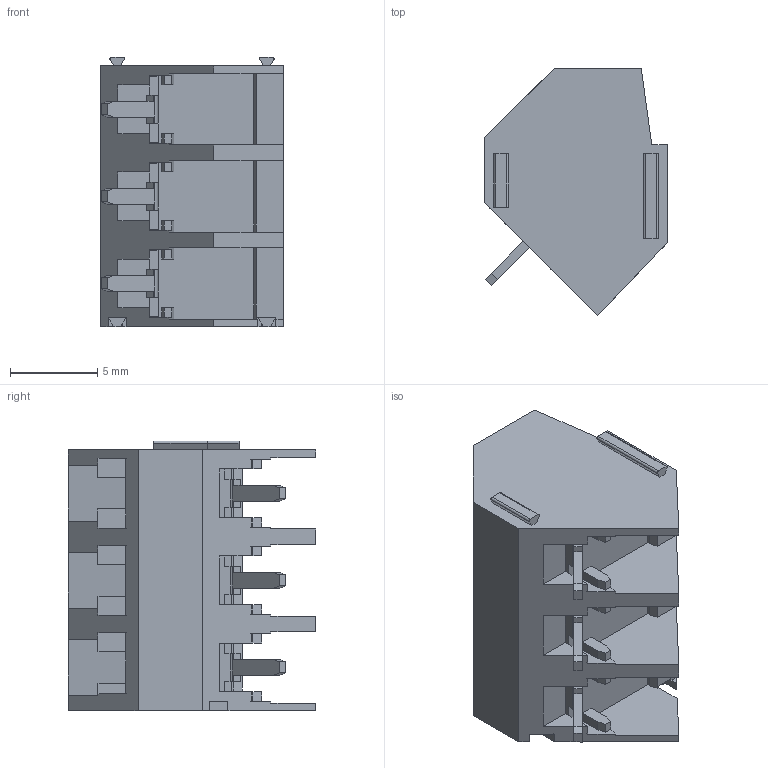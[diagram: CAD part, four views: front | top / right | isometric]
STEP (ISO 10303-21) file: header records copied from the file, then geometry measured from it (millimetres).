
FILE_DESCRIPTION (( 'STEP AP214' ), '1' );
FILE_NAME ('140-C-111-03.STEP', '2007-11-02T14:37:29', ( 'weco' ), ( 'weco' ), 'SwSTEP 2.0', 'SolidWorks 2007', '' );
FILE_SCHEMA (( 'AUTOMOTIVE_DESIGN' ));
Length unit declared in the file: millimetre
Products named in the file (1): 140-C-111-03
Bounding box: 10.5 x 14.2 x 15.5 mm (x, y, z)
Volume: 1077.1 mm3; surface area: 1446.1 mm2
Topology: 1 solids, 1 shells, 400 faces, 1148 edges, 746 vertices
Faces by surface type: plane 326, cylinder 50, bspline 15, cone 9
Entity records: 13376 total; most frequent: CARTESIAN_POINT 2955, ORIENTED_EDGE 2296, DIRECTION 1996, EDGE_CURVE 1148, VECTOR 964, LINE 964, VERTEX_POINT 746, AXIS2_PLACEMENT_3D 516
